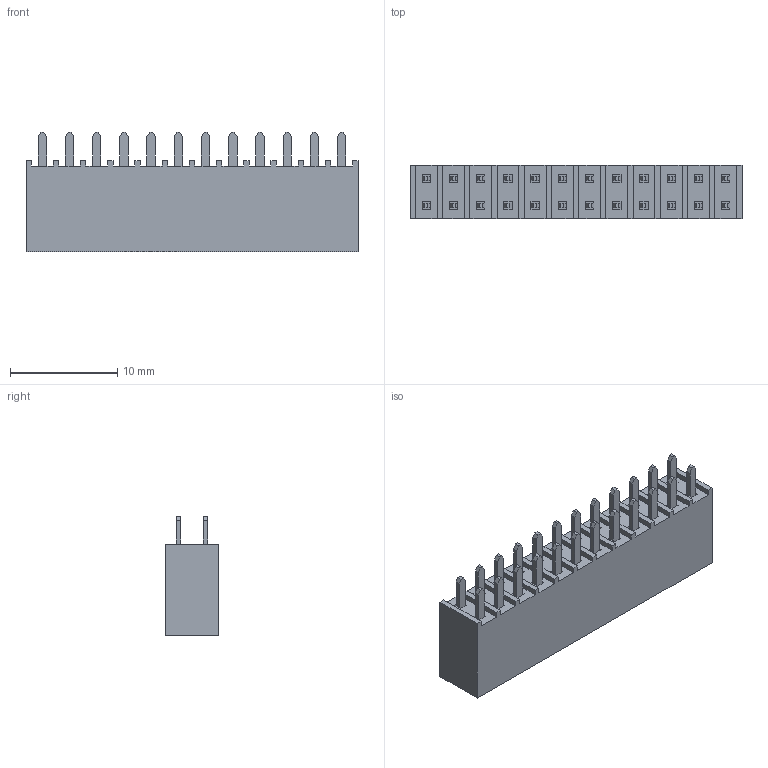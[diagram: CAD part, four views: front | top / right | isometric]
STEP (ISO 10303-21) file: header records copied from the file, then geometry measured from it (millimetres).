
FILE_DESCRIPTION(('FreeCAD Model'),'2;1');
FILE_NAME('C:\Users\cr185092\Documents\KiCAD_Projects\VORON_V2.0_Expander_option2\VORON_V2.0.pretty\3D_Models\PIN_SOCKET_BOTTOM_2X12.step','2017-11-19T10:42:37',('kicad StepUp'),( 'ksu MCAD'),'Open CASCADE STEP processor 6.8','FreeCAD','Unknown');
FILE_SCHEMA(('AUTOMOTIVE_DESIGN_CC2 { 1 2 10303 214 -1 1 5 4 }'));
Length unit declared in the file: millimetre
Products named in the file (1): PIN_SOCKET_BOTTOM_2X12
Bounding box: 30.99 x 4.95 x 11.15 mm (x, y, z)
Volume: 1153.5 mm3; surface area: 1727.9 mm2
Topology: 1 solids, 1 shells, 534 faces, 1356 edges, 872 vertices
Faces by surface type: plane 534
Entity records: 19363 total; most frequent: CARTESIAN_POINT 2763, ORIENTED_EDGE 2712, DIRECTION 2426, EDGE_CURVE 1356, LINE 1356, VECTOR 1356, VERTEX_POINT 872, FACE_BOUND 582
